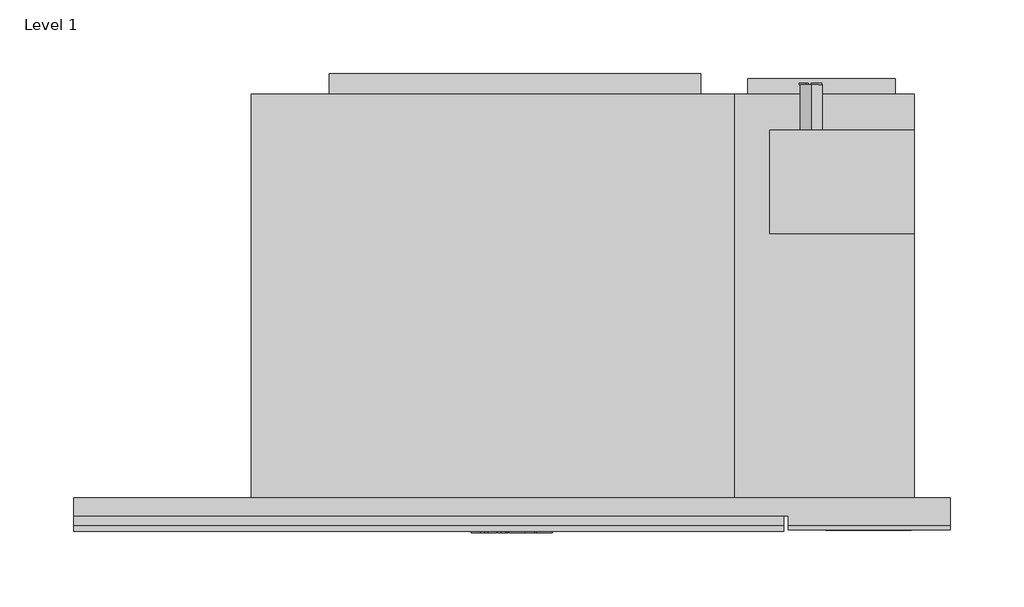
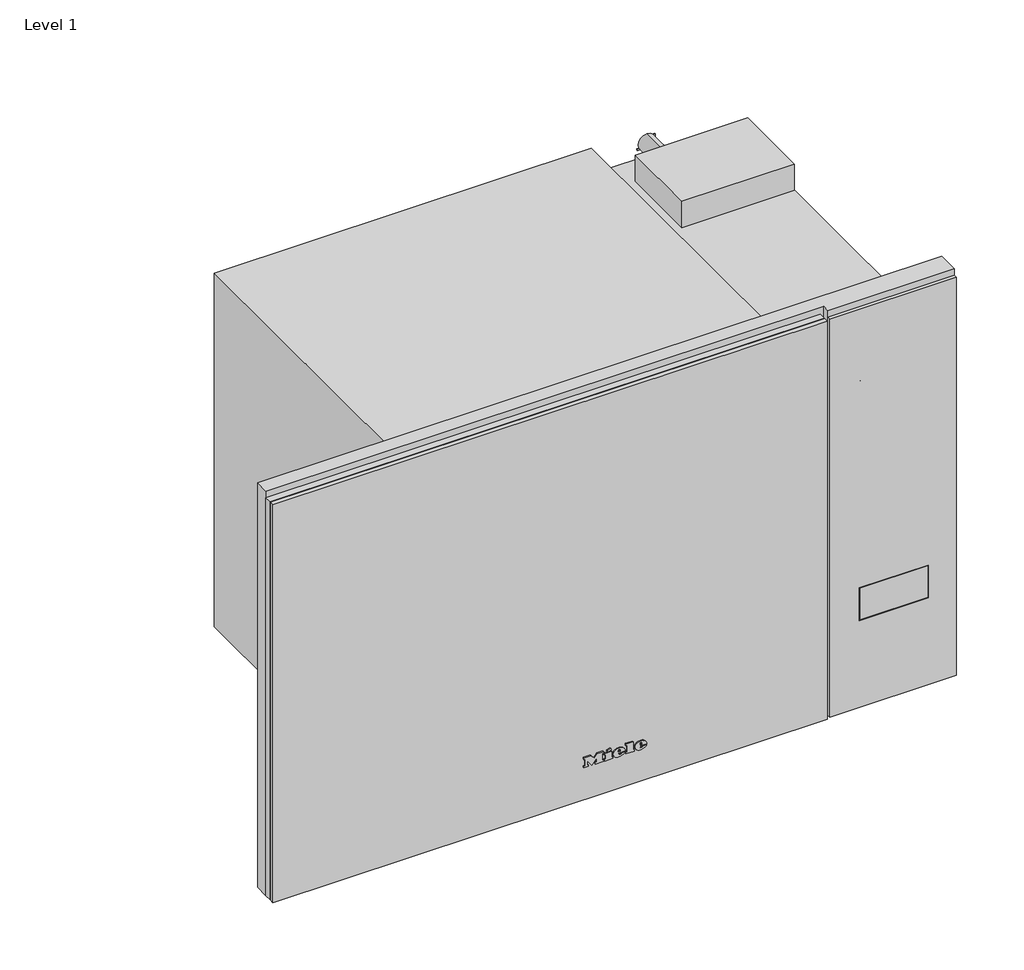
# One storey: 1 proxy.
"""IFC4 building model written with IfcOpenShell, lengths in millimetres."""

from ifc_helpers import new_model, si_unit, origin, place, context, project, spatial, transform, mapped, element, save
from components import specialty_equipment_3d04ccbc

model = new_model("IFC4")

# Units and contexts
model_context = context("Model", 3, world=origin())
ifc_project = project(units=[si_unit("LENGTHUNIT", "METRE", prefix="MILLI")], contexts=[model_context])

# Site, building, storey
site = spatial("IfcSite", under=ifc_project)
building = spatial("IfcBuilding", under=site)
storey = spatial("IfcBuildingStorey", under=building, Name="Level 1", Elevation=0.0)

# Proxy
placement = place(None, origin())
specialty_equipment_shape = specialty_equipment_3d04ccbc(model_context)
element("IfcBuildingElementProxy", 1, Name="11103460_D_M2234SC_OBSW : 24223420_D_11103460_M2234SC_OBSW", ObjectType="11103460_D_M2234SC_OBSW : 24223420_D_11103460_M2234SC_OBSW", at=placement, inside=storey, context=model_context, shape_type="MappedRepresentation", body=[
    mapped(specialty_equipment_shape, transform((0.0, 0.0, 0.0), x_axis=(1.0, 0.0, 0.0), y_axis=(0.0, 1.0, 0.0), z_axis=(0.0, 0.0, 1.0))),
])

save(model, "model.ifc")
